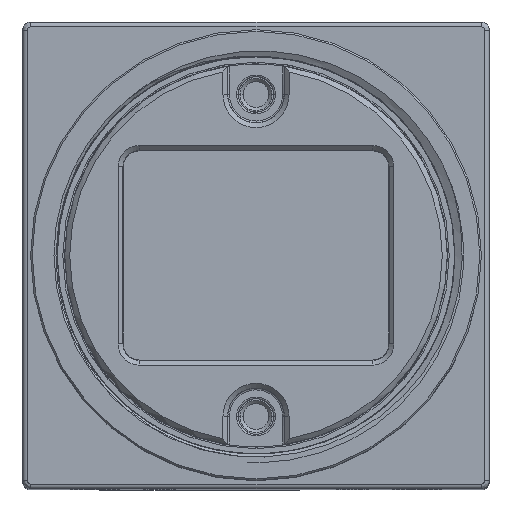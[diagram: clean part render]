
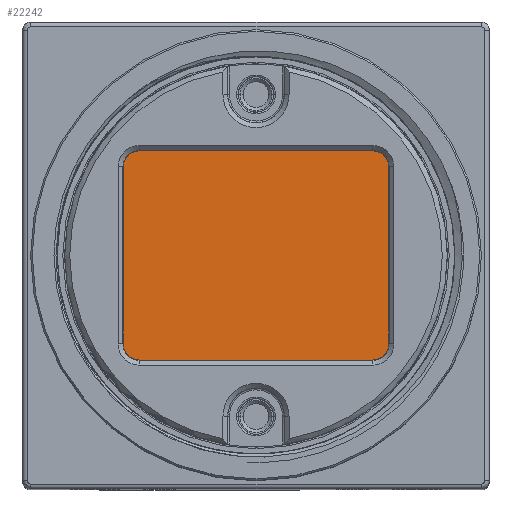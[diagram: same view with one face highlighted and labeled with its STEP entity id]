
A CAD part, top view. The second image highlights one B-rep face of the part: STEP entity #22242.
In plain terms, the highlighted planar face has unit normal (0, 0, 1) as drawn and (0, 1, 0) by its records, which use the part's own axes.
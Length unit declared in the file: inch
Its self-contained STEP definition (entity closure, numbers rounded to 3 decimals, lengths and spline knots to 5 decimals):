
#22127=DIRECTION('',(0.,0.,-1.));
#22128=VECTOR('',#22127,0.70866);
#22129=CARTESIAN_POINT('',(-0.29528,0.04331,
0.35433));
#22130=LINE('',#22129,#22128);
#22131=DIRECTION('',(1.,0.,0.));
#22132=VECTOR('',#22131,0.59055);
#22133=CARTESIAN_POINT('',(-0.29528,0.04331,
-0.35433));
#22134=LINE('',#22133,#22132);
#22135=DIRECTION('',(0.,0.,1.));
#22136=VECTOR('',#22135,0.70866);
#22137=CARTESIAN_POINT('',(0.29528,0.04331,
-0.35433));
#22138=LINE('',#22137,#22136);
#22139=DIRECTION('',(-1.,0.,0.));
#22140=VECTOR('',#22139,0.59055);
#22141=CARTESIAN_POINT('',(0.29528,0.04331,
0.35433));
#22142=LINE('',#22141,#22140);
#22151=CARTESIAN_POINT('',(-0.29528,0.04331,
-0.35433));
#22152=VERTEX_POINT('',#22151);
#22153=CARTESIAN_POINT('',(-0.29528,0.04331,
0.35433));
#22154=VERTEX_POINT('',#22153);
#22155=CARTESIAN_POINT('',(0.29528,0.04331,
-0.35433));
#22156=VERTEX_POINT('',#22155);
#22157=CARTESIAN_POINT('',(0.29528,0.04331,
0.35433));
#22158=VERTEX_POINT('',#22157);
#22231=CARTESIAN_POINT('',(0.,0.04331,0.));
#22232=DIRECTION('',(0.,1.,0.));
#22233=DIRECTION('',(1.,0.,0.));
#22234=AXIS2_PLACEMENT_3D('',#22231,#22232,#22233);
#22235=PLANE('',#22234);
#22236=ORIENTED_EDGE('',*,*,#22183,.T.);
#22237=ORIENTED_EDGE('',*,*,#22198,.T.);
#22238=ORIENTED_EDGE('',*,*,#22212,.T.);
#22239=ORIENTED_EDGE('',*,*,#22225,.T.);
#22240=EDGE_LOOP('',(#22236,#22237,#22238,#22239));
#22241=FACE_OUTER_BOUND('',#22240,.F.);
#22242=ADVANCED_FACE('',(#22241),#22235,.T.);
#22183=EDGE_CURVE('',#22154,#22152,#22130,.T.);
#22198=EDGE_CURVE('',#22152,#22156,#22134,.T.);
#22212=EDGE_CURVE('',#22156,#22158,#22138,.T.);
#22225=EDGE_CURVE('',#22158,#22154,#22142,.T.);
